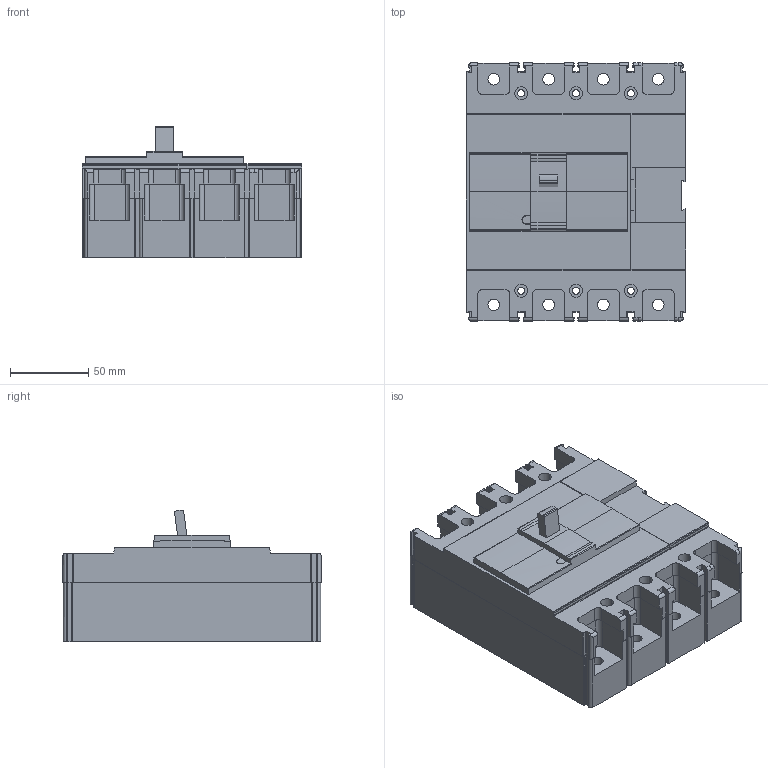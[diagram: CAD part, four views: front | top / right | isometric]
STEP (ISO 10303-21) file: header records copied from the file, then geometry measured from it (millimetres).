
FILE_DESCRIPTION (( 'STEP AP203' ), '1' );
FILE_NAME ('SMART 250AF 4P.STEP', '2018-01-04T00:42:30', ( '' ), ( '' ), 'SwSTEP 2.0', 'SolidWorks 2015', '' );
FILE_SCHEMA (( 'CONFIG_CONTROL_DESIGN' ));
Length unit declared in the file: millimetre
Products named in the file (1): SMART 250AF 4P
Bounding box: 139.8 x 164.8 x 83.97 mm (x, y, z)
Volume: 1205060.2 mm3; surface area: 112512.1 mm2
Topology: 1 solids, 1 shells, 591 faces, 1754 edges, 1174 vertices
Faces by surface type: plane 294, cylinder 223, bspline 74
Entity records: 20971 total; most frequent: CARTESIAN_POINT 5118, ORIENTED_EDGE 3508, DIRECTION 3060, EDGE_CURVE 1754, VERTEX_POINT 1174, VECTOR 1120, LINE 1120, AXIS2_PLACEMENT_3D 970
